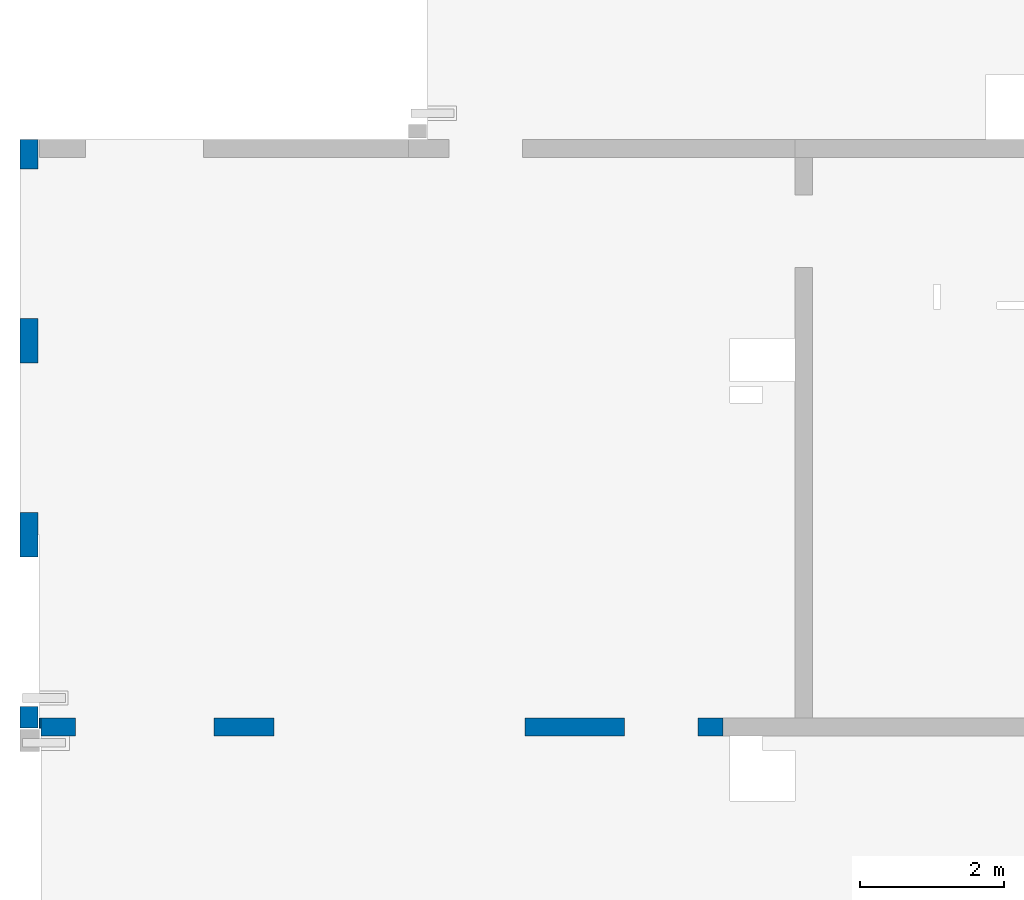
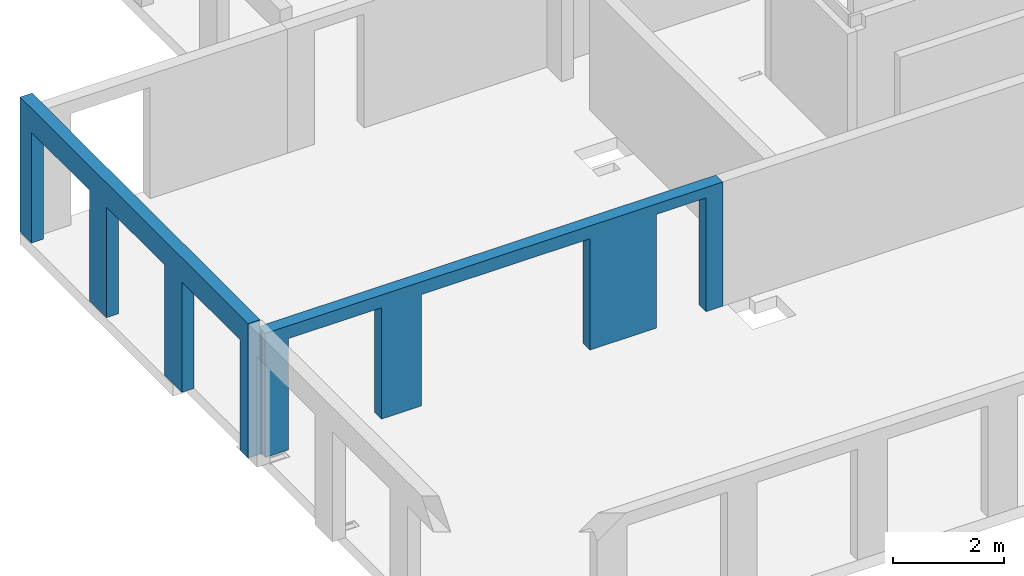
# One storey, part 3 of 13: 3 walls, 7 openings.
"""IFC2X3 building model written with IfcOpenShell, lengths in millimetres."""

from ifc_helpers import new_model, entity, si_unit, converted_unit, derived_unit, direction, frame, frame_2d, origin, place, context, subcontext, project, spatial, rectangle, extrude, material, layer, layer_set, layer_usage, type_object, element, save


model = new_model("IFC2X3")

# Units and contexts
model_context = context("Model", 3, precision=0.01, world=origin(), true_north=direction((6.12303176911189e-17, 1.0)))
body_context = subcontext(model_context, "Body", "Model", "MODEL_VIEW")
ifc_project = project(units=[si_unit("LENGTHUNIT", "METRE", prefix="MILLI"), si_unit("AREAUNIT", "SQUARE_METRE"), si_unit("VOLUMEUNIT", "CUBIC_METRE"), converted_unit("PLANEANGLEUNIT", "DEGREE", entity("IfcRatioMeasure", 0.0174532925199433), si_unit("PLANEANGLEUNIT", "RADIAN"), dimensions=[0, 0, 0, 0, 0, 0, 0]), si_unit("MASSUNIT", "GRAM", prefix="KILO"), derived_unit("MASSDENSITYUNIT", [(si_unit("MASSUNIT", "GRAM", prefix="KILO"), 1), (si_unit("LENGTHUNIT", "METRE"), -3)]), si_unit("TIMEUNIT", "SECOND"), si_unit("FREQUENCYUNIT", "HERTZ"), si_unit("THERMODYNAMICTEMPERATUREUNIT", "DEGREE_CELSIUS"), derived_unit("THERMALTRANSMITTANCEUNIT", [(si_unit("MASSUNIT", "GRAM", prefix="KILO"), 1), (si_unit("THERMODYNAMICTEMPERATUREUNIT", "KELVIN"), -1), (si_unit("TIMEUNIT", "SECOND"), -3)]), derived_unit("VOLUMETRICFLOWRATEUNIT", [(si_unit("LENGTHUNIT", "METRE"), 3), (si_unit("TIMEUNIT", "SECOND"), -1)]), si_unit("ELECTRICCURRENTUNIT", "AMPERE"), si_unit("ELECTRICVOLTAGEUNIT", "VOLT"), si_unit("POWERUNIT", "WATT"), si_unit("FORCEUNIT", "NEWTON", prefix="KILO"), si_unit("ILLUMINANCEUNIT", "LUX"), si_unit("LUMINOUSFLUXUNIT", "LUMEN"), si_unit("LUMINOUSINTENSITYUNIT", "CANDELA"), derived_unit("USERDEFINED", [(si_unit("MASSUNIT", "GRAM", prefix="KILO"), -1), (si_unit("LENGTHUNIT", "METRE"), -2), (si_unit("TIMEUNIT", "SECOND"), 3), (si_unit("LUMINOUSFLUXUNIT", "LUMEN"), 1)]), derived_unit("LINEARVELOCITYUNIT", [(si_unit("LENGTHUNIT", "METRE"), 1), (si_unit("TIMEUNIT", "SECOND"), -1)]), si_unit("PRESSUREUNIT", "PASCAL"), derived_unit("USERDEFINED", [(si_unit("LENGTHUNIT", "METRE"), -2), (si_unit("MASSUNIT", "GRAM", prefix="KILO"), 1), (si_unit("TIMEUNIT", "SECOND"), -2)])], contexts=[model_context])

# Site, building, storey
site_placement = place(None, origin())
site = spatial("IfcSite", under=ifc_project, at=site_placement, Name="Default", CompositionType="ELEMENT")
building_placement = place(site_placement, origin())
building = spatial("IfcBuilding", under=site, at=building_placement, Name="niet gebruiken", CompositionType="ELEMENT")
storey_placement = place(building_placement, frame((0.0, 0.0, 60120.0)))
storey = spatial("IfcBuildingStorey", under=building, at=storey_placement, Name="20 twintigste verdieping", CompositionType="ELEMENT", Elevation=60120.0)

# Wall, openings
ifc_material_1 = material(Name="NLRS_f2_beton ihwg")
ifc_layer_1 = layer(ifc_material_1, 250.0)
ifc_layer_set_1 = layer_set([ifc_layer_1], Name="Basic Wall:NLRS_22.21_WA_beton ihwg d=250_gen")
ifc_layer_usage_1 = layer_usage(ifc_layer_set_1, "AXIS2", "NEGATIVE", 125.0)
wall_type_1 = type_object("IfcWallType", Name="Basic Wall:NLRS_22.21_WA_beton ihwg d=250_gen", PredefinedType="STANDARD", material=ifc_layer_set_1)
wall_1_placement = place(storey_placement, frame((27190.0, 36981.0, -90.0)))
wall_1 = element("IfcWallStandardCase", 1, at=wall_1_placement, inside=storey, type_object=wall_type_1, material=ifc_layer_usage_1, Name="Basic Wall:NLRS_22.21_WA_beton ihwg d=250_gen", ObjectType="Basic Wall:NLRS_22.21_WA_beton ihwg d=250_gen", context=body_context, shape_type="SweptSolid", body=[
    extrude(rectangle(XDim=9485.0, YDim=250.000000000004, at=frame_2d((4742.5, 0.0), x_axis=(-1.0, 0.0))), origin(), (0.0, 0.0, 1.0), 2719.99999999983),
])
opening_1_placement = place(wall_1_placement, origin())
element("IfcOpeningElement", 2, at=opening_1_placement, cuts=wall_1, Name="Basic Wall:NLRS_22.21_WA_beton ihwg d=250_gen", ObjectType="Opening", context=body_context, shape_type="SweptSolid", body=[
    extrude(rectangle(XDim=2492.00000000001, YDim=1022.0, at=frame_2d((8.75388650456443e-12, 0.0), x_axis=(1.0, 0.0))), frame((8625.0, -1649.0, 1246.0), z_axis=(0.0, 1.0, 0.0), x_axis=(0.0, 0.0, 1.0)), (0.0, 0.0, 1.0), 3048.0),
])
opening_2_placement = place(wall_1_placement, origin())
element("IfcOpeningElement", 3, at=opening_2_placement, cuts=wall_1, Name="Basic Wall:NLRS_22.21_WA_beton ihwg d=250_gen", ObjectType="Opening", context=body_context, shape_type="SweptSolid", body=[
    extrude(rectangle(XDim=2440.0, YDim=1930.0, at=frame_2d((0.0, -2.1600499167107e-12), x_axis=(1.0, 0.0))), frame((1445.0, -1649.0, 1220.0), z_axis=(0.0, 1.0, 0.0), x_axis=(0.0, 0.0, 1.0)), (0.0, 0.0, 1.0), 3048.0),
])
opening_3_placement = place(wall_1_placement, origin())
element("IfcOpeningElement", 4, at=opening_3_placement, cuts=wall_1, Name="Basic Wall:NLRS_22.21_WA_beton ihwg d=250_gen", ObjectType="Opening", context=body_context, shape_type="SweptSolid", body=[
    extrude(rectangle(XDim=2440.0, YDim=3490.0, at=frame_2d((0.0, -2.1600499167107e-12), x_axis=(1.0, 0.0))), frame((4985.0, -1649.0, 1220.0), z_axis=(0.0, 1.0, 0.0), x_axis=(0.0, 0.0, 1.0)), (0.0, 0.0, 1.0), 3048.0),
])
opening_4_placement = place(wall_1_placement, origin())
element("IfcOpeningElement", 5, at=opening_4_placement, cuts=wall_1, Name="Basic Wall:NLRS_22.21_WA_beton ihwg d=250_gen", ObjectType="Recess", context=body_context, shape_type="SweptSolid", body=[
    extrude(rectangle(XDim=55000.0, YDim=20.0000000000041, at=frame_2d((0.0, -2.16626716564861e-12), x_axis=(1.0, 0.0))), frame((-10.0, -140.0, -20020.0), z_axis=(0.0, 1.0, 0.0), x_axis=(0.0, 0.0, -1.0)), (0.0, 0.0, 1.0), 124.999999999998),
])

ifc_material_2 = material(Name="NLRS_f2_beton prefab")
ifc_layer_2 = layer(ifc_material_2, 250.0)
ifc_layer_set_2 = layer_set([ifc_layer_2], Name="Basic Wall:NLRS_21.21_WA_beton prefab d=250_gen")
ifc_layer_usage_2 = layer_usage(ifc_layer_set_2, "AXIS2", "NEGATIVE", 125.0)
wall_type_2 = type_object("IfcWallType", Name="Basic Wall:NLRS_21.21_WA_beton prefab d=250_gen", PredefinedType="STANDARD", material=ifc_layer_set_2)
wall_2_placement = place(storey_placement, frame((27025.0, 45156.0, -70.0), z_axis=(0.0, 0.0, 1.0), x_axis=(0.0, -1.0, 0.0)))
wall_2 = element("IfcWallStandardCase", 6, at=wall_2_placement, inside=storey, type_object=wall_type_2, material=ifc_layer_usage_2, Name="Basic Wall:NLRS_21.21_WA_beton prefab d=250_gen", ObjectType="Basic Wall:NLRS_21.21_WA_beton prefab d=250_gen", context=body_context, shape_type="SweptSolid", body=[
    extrude(rectangle(XDim=8189.99999999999, YDim=250.000000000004, at=frame_2d((4095.0, 0.0), x_axis=(-1.0, 0.0))), origin(), (0.0, 0.0, 1.0), 2950.00000000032),
])
opening_5_placement = place(wall_2_placement, origin())
element("IfcOpeningElement", 7, at=opening_5_placement, cuts=wall_2, Name="Basic Wall:NLRS_21.21_WA_beton prefab d=250_gen", ObjectType="Opening", context=body_context, shape_type="SweptSolid", body=[
    extrude(rectangle(XDim=2420.0, YDim=2080.0, at=frame_2d((0.0, 0.0), x_axis=(0.0, 1.0))), frame((1450.0, -1399.0, 1210.0), z_axis=(0.0, 1.0, 0.0), x_axis=(-1.0, 0.0, 0.0)), (0.0, 0.0, 1.0), 3048.0),
])
opening_6_placement = place(wall_2_placement, origin())
element("IfcOpeningElement", 8, at=opening_6_placement, cuts=wall_2, Name="Basic Wall:NLRS_21.21_WA_beton prefab d=250_gen", ObjectType="Opening", context=body_context, shape_type="SweptSolid", body=[
    extrude(rectangle(XDim=2420.0, YDim=2080.0, at=frame_2d((0.0, 0.0), x_axis=(0.0, 1.0))), frame((4150.0, -1399.0, 1210.0), z_axis=(0.0, 1.0, 0.0), x_axis=(-1.0, 0.0, 0.0)), (0.0, 0.0, 1.0), 3048.0),
])
opening_7_placement = place(wall_2_placement, origin())
element("IfcOpeningElement", 9, at=opening_7_placement, cuts=wall_2, Name="Basic Wall:NLRS_21.21_WA_beton prefab d=250_gen", ObjectType="Opening", context=body_context, shape_type="SweptSolid", body=[
    extrude(rectangle(XDim=2420.0, YDim=2080.0, at=frame_2d((0.0, 0.0), x_axis=(0.0, 1.0))), frame((6850.0, -1399.0, 1210.0), z_axis=(0.0, 1.0, 0.0), x_axis=(-1.0, 0.0, 0.0)), (0.0, 0.0, 1.0), 3048.0),
])

# Wall
ifc_layer_3 = layer(ifc_material_1, 140.0)
ifc_layer_set_3 = layer_set([ifc_layer_3], Name="Basic Wall:NLRS_22.21_WA_beton ihwg d=140_gen")
ifc_layer_usage_3 = layer_usage(ifc_layer_set_3, "AXIS2", "NEGATIVE", 70.0)
wall_type_3 = type_object("IfcWallType", Name="Basic Wall:NLRS_22.21_WA_beton ihwg d=140_gen", PredefinedType="STANDARD", material=ifc_layer_set_3)
wall_3_placement = place(storey_placement, frame((27170.0, 37036.0, -90.0)))
element("IfcWallStandardCase", 10, at=wall_3_placement, inside=storey, type_object=wall_type_3, material=ifc_layer_usage_3, Name="Basic Wall:NLRS_22.21_WA_beton ihwg d=140_gen", ObjectType="Basic Wall:NLRS_22.21_WA_beton ihwg d=140_gen", context=body_context, shape_type="SweptSolid", body=[
    extrude(rectangle(XDim=19.9999999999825, YDim=140.000000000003, at=frame_2d((9.99999999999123, 0.0), x_axis=(-1.0, 0.0))), origin(), (0.0, 0.0, 1.0), 2719.99999999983),
])

save(model, "model.ifc")
